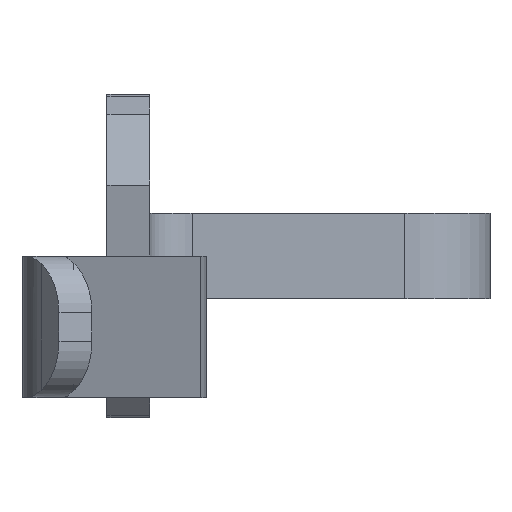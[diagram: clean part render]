
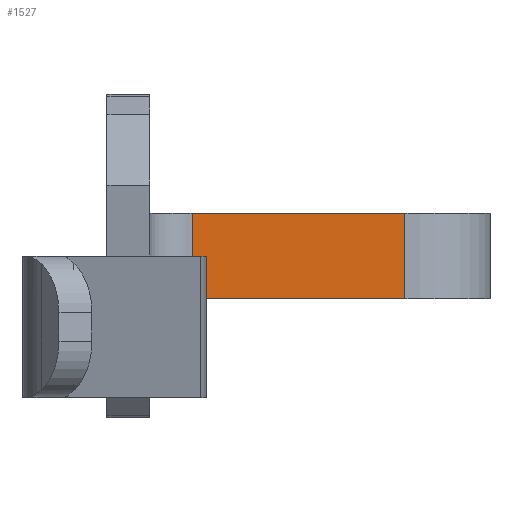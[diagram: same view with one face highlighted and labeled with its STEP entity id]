
A CAD part, left-side view. The second image highlights one B-rep face of the part: STEP entity #1527.
In plain terms, the highlighted planar face has unit normal (-1, 0, 0).
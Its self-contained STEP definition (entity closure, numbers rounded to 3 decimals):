
#481=DIRECTION('',(0.,-1.,0.));
#482=VECTOR('',#481,0.75);
#483=CARTESIAN_POINT('',(3.795,0.2,-0.15));
#484=LINE('',#483,#482);
#489=DIRECTION('',(0.,-1.,0.));
#490=VECTOR('',#489,0.75);
#491=CARTESIAN_POINT('',(3.795,0.2,0.15));
#492=LINE('',#491,#490);
#497=DIRECTION('',(0.,0.,1.));
#498=VECTOR('',#497,0.3);
#499=CARTESIAN_POINT('',(3.795,-0.55,-0.15));
#500=LINE('',#499,#498);
#585=DIRECTION('',(0.,0.,-1.));
#586=VECTOR('',#585,0.3);
#587=CARTESIAN_POINT('',(3.795,0.2,0.15));
#588=LINE('',#587,#586);
#801=CARTESIAN_POINT('',(3.795,0.2,-0.15));
#802=VERTEX_POINT('',#801);
#805=CARTESIAN_POINT('',(3.795,0.2,0.15));
#806=VERTEX_POINT('',#805);
#809=CARTESIAN_POINT('',(3.795,-0.55,0.15));
#810=VERTEX_POINT('',#809);
#813=CARTESIAN_POINT('',(3.795,-0.55,-0.15));
#814=VERTEX_POINT('',#813);
#1514=CARTESIAN_POINT('',(3.795,-0.55,0.25));
#1515=DIRECTION('',(1.,0.,0.));
#1516=DIRECTION('',(0.,1.,0.));
#1517=AXIS2_PLACEMENT_3D('',#1514,#1515,#1516);
#1518=PLANE('',#1517);
#1519=ORIENTED_EDGE('',*,*,#1480,.T.);
#1521=ORIENTED_EDGE('',*,*,#1520,.F.);
#1522=ORIENTED_EDGE('',*,*,#1507,.F.);
#1524=ORIENTED_EDGE('',*,*,#1523,.F.);
#1525=EDGE_LOOP('',(#1519,#1521,#1522,#1524));
#1526=FACE_OUTER_BOUND('',#1525,.F.);
#1527=ADVANCED_FACE('',(#1526),#1518,.F.);
#1480=EDGE_CURVE('',#806,#810,#492,.T.);
#1507=EDGE_CURVE('',#802,#814,#484,.T.);
#1520=EDGE_CURVE('',#814,#810,#500,.T.);
#1523=EDGE_CURVE('',#806,#802,#588,.T.);
